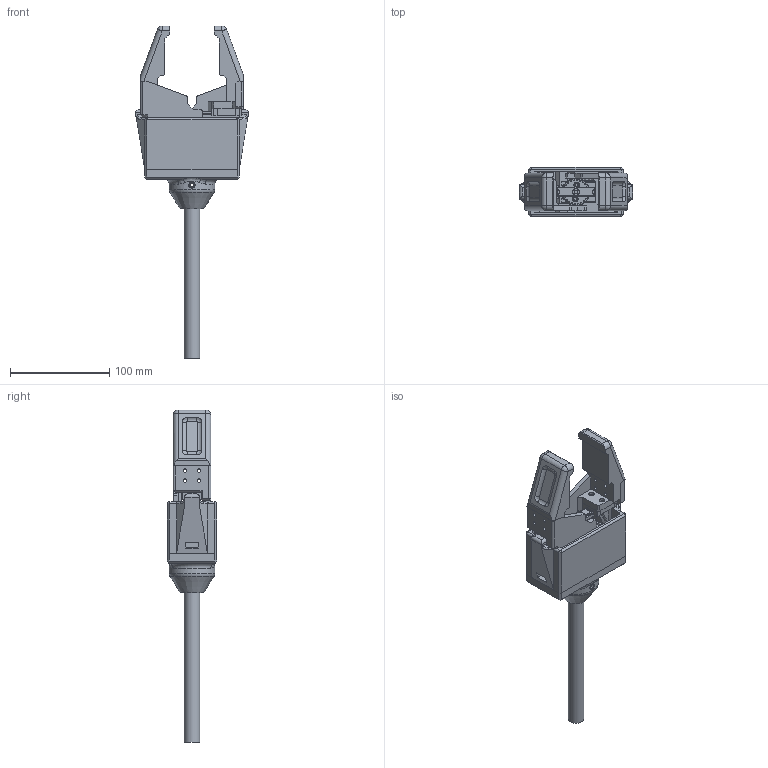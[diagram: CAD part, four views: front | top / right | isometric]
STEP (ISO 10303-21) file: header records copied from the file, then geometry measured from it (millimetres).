
FILE_DESCRIPTION(/* description */ (''),/* implementation_level */ '2;1');
FILE_NAME(/* name */ 'gripper elico LML9B TD9512_polso.stp',/* time_stamp */ '2025-12-20T14:11:27+01:00',/* author */ ('R5800u'),/* organization */ (''),/* preprocessor_version */ 'ST-DEVELOPER v20',/* originating_system */ 'Autodesk Inventor 2025',/* authorisation */ '');
FILE_SCHEMA (('AUTOMOTIVE_DESIGN { 1 0 10303 214 3 1 1 }'));
Length unit declared in the file: millimetre
Products named in the file (14): Assieme_elicoidale2; pignone_elicoidale2; cremagliera_elicoidale; Linear Rail & Block LML9B; Linear Guide Rail LML9B; Linear Guide Block LML9B; dito_elicoidale; scatola; TD-9512MG v1; 金属舵盘（驱动）; blocco_laterale_motore; polso; tubo_alluminio_16mm; AS 1112 - M3  Tipo 5
Assembly tree (16 placements, depth 3):
  Assieme_elicoidale2
    cremagliera_elicoidale  x2
    pignone_elicoidale2
    Linear Rail & Block LML9B
      Linear Guide Rail LML9B
      Linear Guide Block LML9B  x2
    dito_elicoidale  x2
    scatola
    TD-9512MG v1
    金属舵盘（驱动）
    blocco_laterale_motore
    polso
    tubo_alluminio_16mm
    AS 1112 - M3  Tipo 5
Bounding box: 113.91 x 50 x 334 mm (x, y, z)
Volume: 355038.5 mm3; surface area: 137612.9 mm2
Topology: 25 solids, 25 shells, 1459 faces, 3852 edges, 2508 vertices
Faces by surface type: plane 903, cylinder 308, bspline 184, cone 39, sphere 16, torus 9
Full cylindrical faces by diameter (mm): 2.459 x2, 2.5 x12, 2.8 x2, 3 x2, 3.2 x1, 3.4 x51, 4.901 x1, 5.6 x16, 5.7 x2, 6 x1, 6.2 x1, 6.5 x5, 10 x1, 10.6 x1, 14 x1, 16 x1, 16.1 x1, 19.2 x1, 20 x1, 46 x1
Entity records: 45850 total; most frequent: CARTESIAN_POINT 16415, ORIENTED_EDGE 6316, DIRECTION 5321, EDGE_CURVE 3158, LINE 2105, VECTOR 2105, VERTEX_POINT 2063, AXIS2_PLACEMENT_3D 1608
